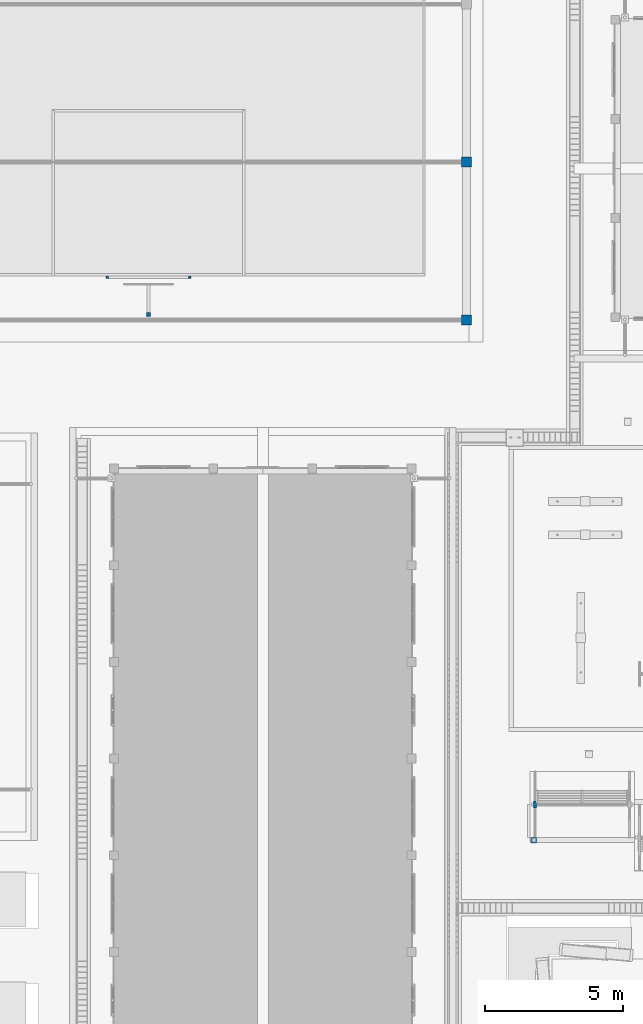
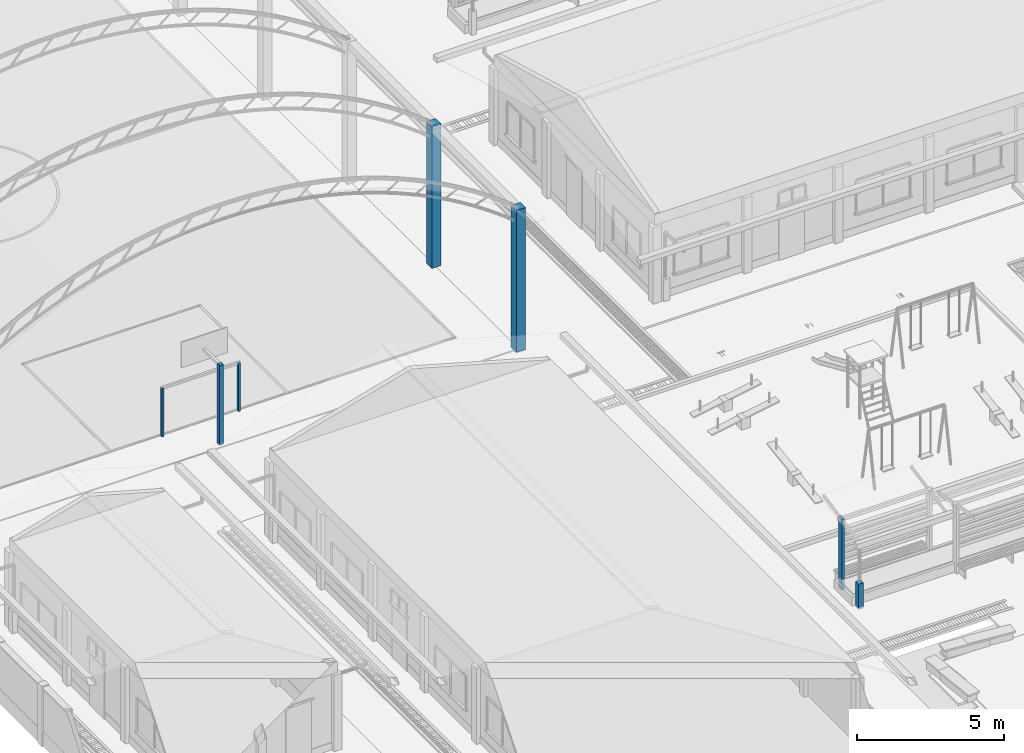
# One storey, part 7 of 151: 7 columns.
"""IFC2X3 building model written with IfcOpenShell, lengths in metres."""

from ifc_helpers import new_model, si_unit, origin, origin_with_axes, place, context, subcontext, project, spatial, faceted_brep, element, save


model = new_model("IFC2X3")

# Units and contexts
model_context = context("Model", 3, precision=1e-05, world=origin_with_axes())
body_context = subcontext(model_context, "Body", "Model", "MODEL_VIEW")
ifc_project = project(units=[si_unit("LENGTHUNIT", "METRE"), si_unit("AREAUNIT", "SQUARE_METRE"), si_unit("VOLUMEUNIT", "CUBIC_METRE"), si_unit("PLANEANGLEUNIT", "RADIAN")], contexts=[model_context])

# Site, building, storey
site_placement = place(None, origin_with_axes())
site = spatial("IfcSite", under=ifc_project, at=site_placement, Name="Predio Los Mangos - Morales, San Martín", CompositionType="ELEMENT")
building_placement = place(site_placement, origin())
building = spatial("IfcBuilding", under=site, at=building_placement, Name="Hogar de Refugio Temporal", CompositionType="ELEMENT")
storey_placement = place(building_placement, origin())
storey = spatial("IfcBuildingStorey", under=building, at=storey_placement, Name="NIVEL 1 (NPT +0.00)", CompositionType="ELEMENT", Elevation=0.0)

# Columns
column_1_placement = place(storey_placement, origin())
element("IfcColumn", 1, at=column_1_placement, inside=storey, Name="poste_arco", ObjectType="Columna", context=body_context, shape_type="Brep", body=[
    faceted_brep([(13.51, 94.11, 0.12), (13.51, 94.19, 0.12), (13.59, 94.19, 0.12), (13.59, 94.11, 0.12), (13.51, 94.11, 2.12), (13.59, 94.11, 2.12), (13.59, 94.19, 2.12), (13.51, 94.19, 2.12)], [[[0, 1, 2, 3]], [[4, 5, 6, 7]], [[0, 3, 5, 4]], [[3, 2, 6, 5]], [[2, 1, 7, 6]], [[1, 0, 4, 7]]]),
])
column_2_placement = place(storey_placement, origin())
element("IfcColumn", 2, at=column_2_placement, inside=storey, Name="poste_arco", ObjectType="Columna", context=body_context, shape_type="Brep", body=[
    faceted_brep([(16.51, 94.11, 0.12), (16.51, 94.19, 0.12), (16.59, 94.19, 0.12), (16.59, 94.11, 0.12), (16.51, 94.11, 2.12), (16.59, 94.11, 2.12), (16.59, 94.19, 2.12), (16.51, 94.19, 2.12)], [[[0, 1, 2, 3]], [[4, 5, 6, 7]], [[0, 3, 5, 4]], [[3, 2, 6, 5]], [[2, 1, 7, 6]], [[1, 0, 4, 7]]]),
])
column_3_placement = place(storey_placement, origin())
element("IfcColumn", 3, at=column_3_placement, inside=storey, Name="poste_basquet", ObjectType="Columna", context=body_context, shape_type="Brep", body=[
    faceted_brep([(14.97, 92.72, 0.12), (14.97, 92.88, 0.12), (15.13, 92.88, 0.12), (15.13, 92.72, 0.12), (14.97, 92.72, 3.4), (15.13, 92.72, 3.4), (15.13, 92.88, 3.4), (14.97, 92.88, 3.4)], [[[0, 1, 2, 3]], [[4, 5, 6, 7]], [[0, 3, 5, 4]], [[3, 2, 6, 5]], [[2, 1, 7, 6]], [[1, 0, 4, 7]]]),
])
column_4_placement = place(storey_placement, origin())
element("IfcColumn", 4, at=column_4_placement, inside=storey, Name="columna_losa", ObjectType="Columna", context=body_context, shape_type="Brep", body=[
    faceted_brep([(26.42, 92.42, 0.12), (26.42, 92.78, 0.12), (26.78, 92.78, 0.12), (26.78, 92.42, 0.12), (26.42, 92.42, 6.0), (26.78, 92.42, 6.0), (26.78, 92.78, 6.0), (26.42, 92.78, 6.0)], [[[0, 1, 2, 3]], [[4, 5, 6, 7]], [[0, 3, 5, 4]], [[3, 2, 6, 5]], [[2, 1, 7, 6]], [[1, 0, 4, 7]]]),
])
column_5_placement = place(storey_placement, origin())
element("IfcColumn", 5, at=column_5_placement, inside=storey, Name="columna_losa", ObjectType="Columna", context=body_context, shape_type="Brep", body=[
    faceted_brep([(26.42, 98.1533, 0.12), (26.42, 98.5133, 0.12), (26.78, 98.5133, 0.12), (26.78, 98.1533, 0.12), (26.42, 98.1533, 6.0), (26.78, 98.1533, 6.0), (26.78, 98.5133, 6.0), (26.42, 98.5133, 6.0)], [[[0, 1, 2, 3]], [[4, 5, 6, 7]], [[0, 3, 5, 4]], [[3, 2, 6, 5]], [[2, 1, 7, 6]], [[1, 0, 4, 7]]]),
])
column_6_placement = place(storey_placement, origin())
element("IfcColumn", 6, at=column_6_placement, inside=storey, Name="oc01_columna", ObjectType="Columna", context=body_context, shape_type="Brep", body=[
    faceted_brep([(29.135, 75.125, 0.0), (29.135, 74.875, 0.0), (29.035, 74.875, 0.0), (29.035, 75.125, 0.0), (29.135, 75.125, 2.93), (29.035, 75.125, 2.93), (29.035, 74.875, 2.93), (29.135, 74.875, 2.93)], [[[0, 1, 2, 3]], [[4, 5, 6, 7]], [[0, 3, 5, 4]], [[3, 2, 6, 5]], [[2, 1, 7, 6]], [[1, 0, 4, 7]]]),
])
column_7_placement = place(storey_placement, origin())
element("IfcColumn", 7, at=column_7_placement, inside=storey, Name="oc01_falsa_columna", ObjectType="Falsa columna", context=body_context, shape_type="Brep", body=[
    faceted_brep([(29.145, 73.81, 0.0), (29.145, 73.61, 0.0), (28.945, 73.61, 0.0), (28.945, 73.81, 0.0), (29.145, 73.81, 1.05), (28.945, 73.81, 1.05), (28.945, 73.61, 1.05), (29.145, 73.61, 1.05)], [[[0, 1, 2, 3]], [[4, 5, 6, 7]], [[0, 3, 5, 4]], [[3, 2, 6, 5]], [[2, 1, 7, 6]], [[1, 0, 4, 7]]]),
])

save(model, "model.ifc")
